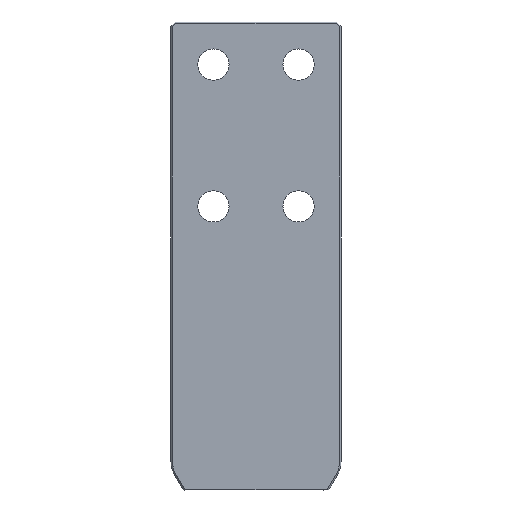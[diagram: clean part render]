
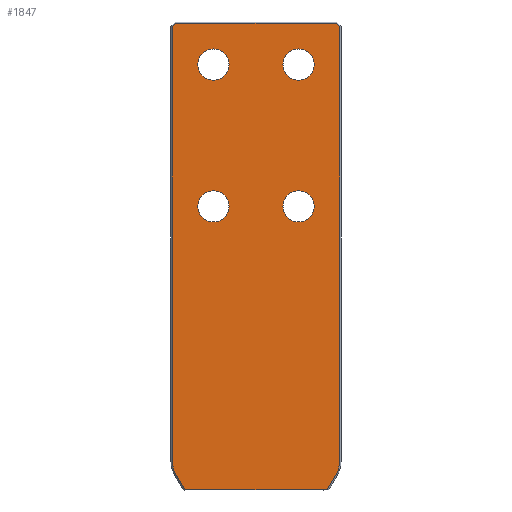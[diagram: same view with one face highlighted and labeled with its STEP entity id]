
A CAD part, front view. The second image highlights one B-rep face of the part: STEP entity #1847.
In plain terms, the highlighted planar face has unit normal (0, -1, 0).
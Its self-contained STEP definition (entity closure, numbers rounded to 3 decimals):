
#126=VERTEX_POINT(' ',#127);
#127=CARTESIAN_POINT('',(30.,-45.,-141.));
#128=VERTEX_POINT(' ',#129);
#129=CARTESIAN_POINT('',(30.,-45.,-119.));
#134=VERTEX_POINT(' ',#135);
#135=CARTESIAN_POINT('',(-30.,-45.,-41.));
#136=VERTEX_POINT(' ',#137);
#137=CARTESIAN_POINT('',(-30.,-45.,-19.));
#142=VERTEX_POINT(' ',#143);
#143=CARTESIAN_POINT('',(30.,-45.,-41.));
#144=VERTEX_POINT(' ',#145);
#145=CARTESIAN_POINT('',(30.,-45.,-19.));
#150=VERTEX_POINT(' ',#151);
#151=CARTESIAN_POINT('',(-30.,-45.,-141.));
#152=VERTEX_POINT(' ',#153);
#153=CARTESIAN_POINT('',(-30.,-45.,-119.));
#236=VERTEX_POINT(' ',#237);
#237=CARTESIAN_POINT('',(50.185,-45.,-330.));
#238=VERTEX_POINT(' ',#239);
#239=CARTESIAN_POINT('',(56.454,-45.,-319.141));
#240=VERTEX_POINT(' ',#241);
#241=CARTESIAN_POINT('',(59.,-45.,-309.641));
#242=VERTEX_POINT(' ',#243);
#243=CARTESIAN_POINT('',(59.,-45.,-170.));
#244=VERTEX_POINT(' ',#245);
#245=CARTESIAN_POINT('',(59.,-45.,-3.414));
#248=VERTEX_POINT(' ',#249);
#249=CARTESIAN_POINT('',(56.586,-45.,-1.));
#252=VERTEX_POINT(' ',#253);
#253=CARTESIAN_POINT('',(-56.586,-45.,-1.));
#256=VERTEX_POINT(' ',#257);
#257=CARTESIAN_POINT('',(-59.,-45.,-3.414));
#266=VERTEX_POINT(' ',#267);
#267=CARTESIAN_POINT('',(-50.185,-45.,-330.));
#268=VERTEX_POINT(' ',#269);
#269=CARTESIAN_POINT('',(-59.,-45.,-170.));
#270=VERTEX_POINT(' ',#271);
#271=CARTESIAN_POINT('',(-59.,-45.,-309.641));
#272=VERTEX_POINT(' ',#273);
#273=CARTESIAN_POINT('',(-56.454,-45.,-319.141));
#274=CIRCLE('',#275,11.);
#275=AXIS2_PLACEMENT_3D('',#276,#277,#278);
#276=CARTESIAN_POINT('',(30.,-45.,-130.));
#277=DIRECTION('',(0.,-1.,0.));
#278=DIRECTION('',(-1.,0.,0.));
#279=EDGE_CURVE(' ',#126,#128,#274,.T.);
#296=CIRCLE('',#297,11.);
#297=AXIS2_PLACEMENT_3D('',#298,#299,#300);
#298=CARTESIAN_POINT('',(30.,-45.,-130.));
#299=DIRECTION('',(0.,-1.,0.));
#300=DIRECTION('',(1.,0.,0.));
#301=EDGE_CURVE(' ',#128,#126,#296,.T.);
#308=CIRCLE('',#309,11.);
#309=AXIS2_PLACEMENT_3D('',#310,#311,#312);
#310=CARTESIAN_POINT('',(-30.,-45.,-30.));
#311=DIRECTION('',(0.,-1.,0.));
#312=DIRECTION('',(-1.,0.,0.));
#313=EDGE_CURVE(' ',#134,#136,#308,.T.);
#330=CIRCLE('',#331,11.);
#331=AXIS2_PLACEMENT_3D('',#332,#333,#334);
#332=CARTESIAN_POINT('',(-30.,-45.,-30.));
#333=DIRECTION('',(0.,-1.,0.));
#334=DIRECTION('',(1.,0.,0.));
#335=EDGE_CURVE(' ',#136,#134,#330,.T.);
#342=CIRCLE('',#343,11.);
#343=AXIS2_PLACEMENT_3D('',#344,#345,#346);
#344=CARTESIAN_POINT('',(30.,-45.,-30.));
#345=DIRECTION('',(0.,1.,0.));
#346=DIRECTION('',(-1.,0.,0.));
#347=EDGE_CURVE(' ',#142,#144,#342,.F.);
#364=CIRCLE('',#365,11.);
#365=AXIS2_PLACEMENT_3D('',#366,#367,#368);
#366=CARTESIAN_POINT('',(30.,-45.,-30.));
#367=DIRECTION('',(0.,1.,0.));
#368=DIRECTION('',(1.,0.,0.));
#369=EDGE_CURVE(' ',#144,#142,#364,.F.);
#376=CIRCLE('',#377,11.);
#377=AXIS2_PLACEMENT_3D('',#378,#379,#380);
#378=CARTESIAN_POINT('',(-30.,-45.,-130.));
#379=DIRECTION('',(0.,1.,0.));
#380=DIRECTION('',(-1.,0.,0.));
#381=EDGE_CURVE(' ',#150,#152,#376,.F.);
#398=CIRCLE('',#399,11.);
#399=AXIS2_PLACEMENT_3D('',#400,#401,#402);
#400=CARTESIAN_POINT('',(-30.,-45.,-130.));
#401=DIRECTION('',(0.,1.,0.));
#402=DIRECTION('',(1.,0.,0.));
#403=EDGE_CURVE(' ',#152,#150,#398,.F.);
#795=LINE('',#796,#797);
#796=CARTESIAN_POINT('',(56.454,-45.,-319.141));
#797=VECTOR('',#798,1.);
#798=DIRECTION('',(-0.5,0.,-0.866));
#799=EDGE_CURVE(' ',#238,#236,#795,.T.);
#805=CIRCLE('',#806,19.);
#806=AXIS2_PLACEMENT_3D('',#807,#808,#809);
#807=CARTESIAN_POINT('',(40.,-45.,-309.641));
#808=DIRECTION('',(0.,1.,0.));
#809=DIRECTION('',(-0.966,0.,0.259));
#810=EDGE_CURVE(' ',#240,#238,#805,.T.);
#816=LINE('',#817,#818);
#817=CARTESIAN_POINT('',(59.,-45.,-170.));
#818=VECTOR('',#819,1.);
#819=DIRECTION('',(0.,0.,-1.));
#820=EDGE_CURVE(' ',#242,#240,#816,.T.);
#826=LINE('',#827,#828);
#827=CARTESIAN_POINT('',(59.,-45.,2.657));
#828=VECTOR('',#829,1.);
#829=DIRECTION('',(0.,0.,-1.));
#830=EDGE_CURVE(' ',#244,#242,#826,.T.);
#846=LINE('',#847,#848);
#847=CARTESIAN_POINT('',(52.293,-45.,3.293));
#848=VECTOR('',#849,1.);
#849=DIRECTION('',(0.707,0.,-0.707));
#850=EDGE_CURVE(' ',#248,#244,#846,.T.);
#866=LINE('',#867,#868);
#867=CARTESIAN_POINT('',(-62.657,-45.,-1.));
#868=VECTOR('',#869,1.);
#869=DIRECTION('',(1.,0.,0.));
#870=EDGE_CURVE(' ',#252,#248,#866,.T.);
#886=LINE('',#887,#888);
#887=CARTESIAN_POINT('',(-63.293,-45.,-7.707));
#888=VECTOR('',#889,1.);
#889=DIRECTION('',(0.707,0.,0.707));
#890=EDGE_CURVE(' ',#256,#252,#886,.T.);
#937=LINE('',#938,#939);
#938=CARTESIAN_POINT('',(-60.12,-45.,-330.));
#939=VECTOR('',#940,1.);
#940=DIRECTION('',(1.,0.,0.));
#941=EDGE_CURVE(' ',#236,#266,#937,.F.);
#942=LINE('',#943,#944);
#943=CARTESIAN_POINT('',(-59.,-45.,-170.));
#944=VECTOR('',#945,1.);
#945=DIRECTION('',(0.,0.,1.));
#946=EDGE_CURVE(' ',#268,#256,#942,.T.);
#947=LINE('',#948,#949);
#948=CARTESIAN_POINT('',(-59.,-45.,-309.641));
#949=VECTOR('',#950,1.);
#950=DIRECTION('',(0.,0.,1.));
#951=EDGE_CURVE(' ',#270,#268,#947,.T.);
#952=CIRCLE('',#953,19.);
#953=AXIS2_PLACEMENT_3D('',#954,#955,#956);
#954=CARTESIAN_POINT('',(-40.,-45.,-309.641));
#955=DIRECTION('',(0.,1.,0.));
#956=DIRECTION('',(0.966,0.,0.259));
#957=EDGE_CURVE(' ',#272,#270,#952,.T.);
#958=LINE('',#959,#960);
#959=CARTESIAN_POINT('',(-47.645,-45.,-334.399));
#960=VECTOR('',#961,1.);
#961=DIRECTION('',(-0.5,0.,0.866));
#962=EDGE_CURVE(' ',#266,#272,#958,.T.);
#1812=ORIENTED_EDGE('',*,*,#946,.F.);
#1813=ORIENTED_EDGE('',*,*,#951,.F.);
#1814=ORIENTED_EDGE('',*,*,#957,.F.);
#1815=ORIENTED_EDGE('',*,*,#962,.F.);
#1816=ORIENTED_EDGE('',*,*,#941,.F.);
#1817=ORIENTED_EDGE('',*,*,#799,.F.);
#1818=ORIENTED_EDGE('',*,*,#810,.F.);
#1819=ORIENTED_EDGE('',*,*,#820,.F.);
#1820=ORIENTED_EDGE('',*,*,#830,.F.);
#1821=ORIENTED_EDGE('',*,*,#850,.F.);
#1822=ORIENTED_EDGE('',*,*,#870,.F.);
#1823=ORIENTED_EDGE('',*,*,#890,.F.);
#1824=EDGE_LOOP('',(#1812,#1813,#1814,#1815,#1816,#1817,#1818,#1819,#1820,#1821,#1822,#1823));
#1825=FACE_OUTER_BOUND('',#1824,.T.);
#1826=ORIENTED_EDGE('',*,*,#403,.F.);
#1827=ORIENTED_EDGE('',*,*,#381,.F.);
#1828=EDGE_LOOP('',(#1826,#1827));
#1829=FACE_BOUND('',#1828,.T.);
#1830=ORIENTED_EDGE('',*,*,#369,.F.);
#1831=ORIENTED_EDGE('',*,*,#347,.F.);
#1832=EDGE_LOOP('',(#1830,#1831));
#1833=FACE_BOUND('',#1832,.T.);
#1834=ORIENTED_EDGE('',*,*,#335,.F.);
#1835=ORIENTED_EDGE('',*,*,#313,.F.);
#1836=EDGE_LOOP('',(#1834,#1835));
#1837=FACE_BOUND('',#1836,.T.);
#1838=ORIENTED_EDGE('',*,*,#301,.F.);
#1839=ORIENTED_EDGE('',*,*,#279,.F.);
#1840=EDGE_LOOP('',(#1838,#1839));
#1841=FACE_BOUND('',#1840,.T.);
#1842=PLANE('',#1843);
#1843=AXIS2_PLACEMENT_3D('',#1844,#1845,#1846);
#1844=CARTESIAN_POINT('',(0.,-45.,0.));
#1845=DIRECTION('',(0.,-1.,0.));
#1846=DIRECTION('',(0.,0.,-1.));
#1847=ADVANCED_FACE('',(#1825,#1829,#1833,#1837,#1841),#1842,.T.);
